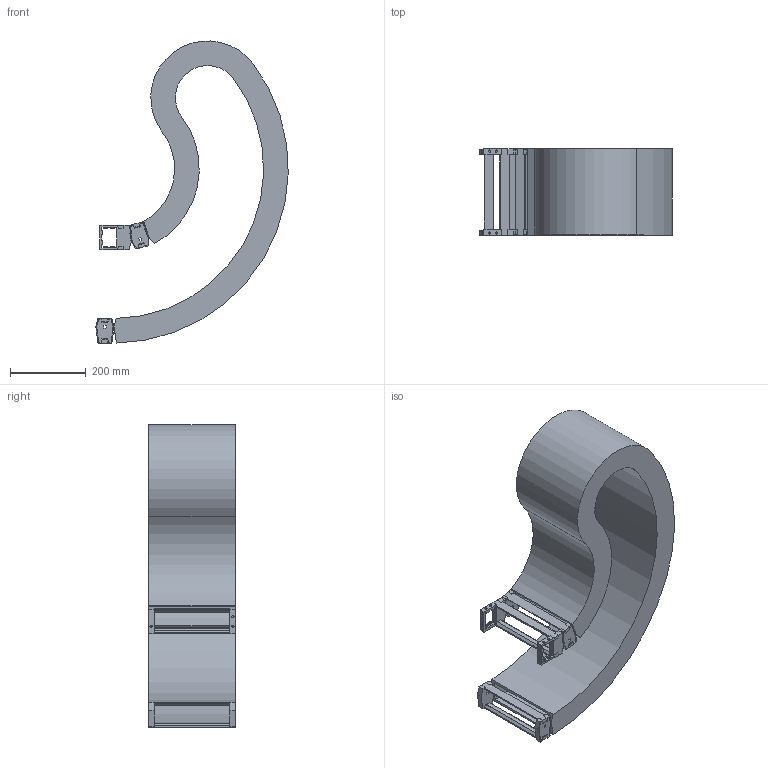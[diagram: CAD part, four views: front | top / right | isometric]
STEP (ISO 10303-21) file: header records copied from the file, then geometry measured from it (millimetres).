
FILE_DESCRIPTION( ( 'STEP AP214' ), '1' );
FILE_NAME( 'p:/temp/worker_39/temp/exporttempdir_2464_101_2qeK9/format_0/RV048CRA22823616090300450-002002474.68352.stp', '2021-07-27T04:46:11', ( 'License CC BY-ND 4.0' ), ( 'CADENAS' ), ' ', 'PARTsolutions', ' ' );
FILE_SCHEMA( ( 'AUTOMOTIVE_DESIGN { 1 0 10303 214 1 1 1 1 }' ) );
Length unit declared in the file: millimetre
Products named in the file (4): RV048CRA22823616090300450-002002474.68352; _RV048CRA22823616090300450-002021501.283-Chain; _RV048CR-SU-48-200; _RV048CR_FB-228
Assembly tree (4 placements, depth 2):
  RV048CRA22823616090300450-002002474.68352
    _RV048CRA22823616090300450-002021501.283-Chain
    _RV048CR-SU-48-200  x2
    _RV048CR_FB-228
Bounding box: 507.79 x 228 x 796.98 mm (x, y, z)
Volume: 7217014.2 mm3; surface area: 1944224.4 mm2
Topology: 4 solids, 4 shells, 507 faces, 1482 edges, 980 vertices
Faces by surface type: plane 389, cylinder 118
Full cylindrical faces by diameter (mm): 6 x12
Entity records: 14298 total; most frequent: CARTESIAN_POINT 2024, ORIENTED_EDGE 2004, DIRECTION 1890, EDGE_CURVE 1002, LINE 822, VECTOR 822, VERTEX_POINT 668, AXIS2_PLACEMENT_3D 534
